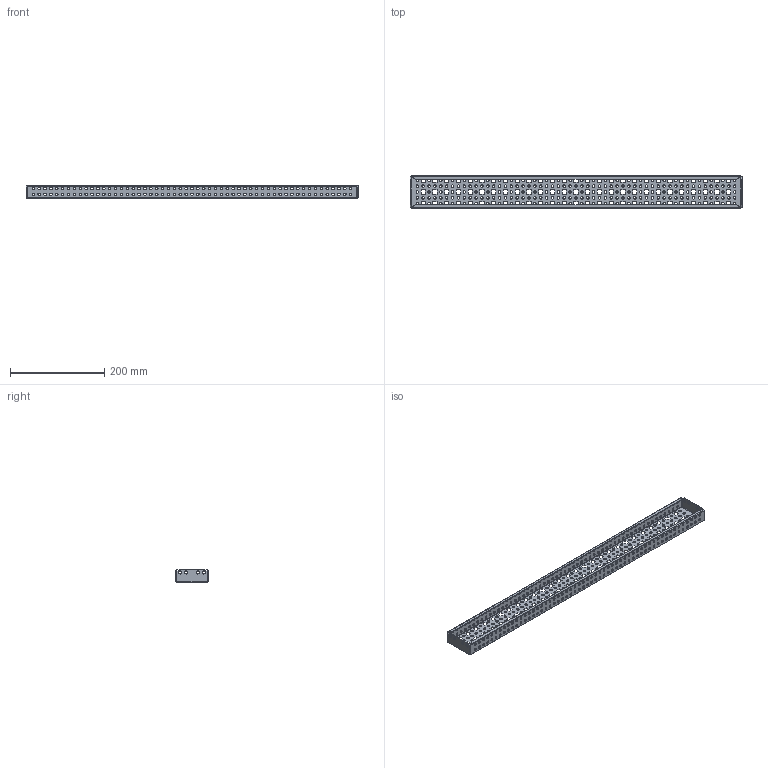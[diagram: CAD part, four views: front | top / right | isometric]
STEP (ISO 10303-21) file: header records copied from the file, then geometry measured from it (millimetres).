
FILE_DESCRIPTION (( 'STEP AP214' ), '1' );
FILE_NAME ('YKM40D-FO-VRÂ-080 Ðåéêà ìîíòàæíàÿ, òèï Â.STEP', '2025-08-14T07:19:18', ( '' ), ( '' ), 'SwSTEP 2.0', 'SolidWorks 2023', '' );
FILE_SCHEMA (( 'AUTOMOTIVE_DESIGN' ));
Length unit declared in the file: millimetre
Products named in the file (1): YKM40D-FO-VRВ-080 Рейка монтажная, тип В
Bounding box: 706 x 69 x 27 mm (x, y, z)
Volume: 118054.9 mm3; surface area: 172074 mm2
Topology: 1 solids, 1 shells, 1214 faces, 3628 edges, 2416 vertices
Faces by surface type: cylinder 844, plane 370
Entity records: 43671 total; most frequent: DIRECTION 7746, CARTESIAN_POINT 7259, ORIENTED_EDGE 7256, EDGE_CURVE 3628, AXIS2_PLACEMENT_3D 2903, VERTEX_POINT 2416, EDGE_LOOP 2220, VECTOR 1940
